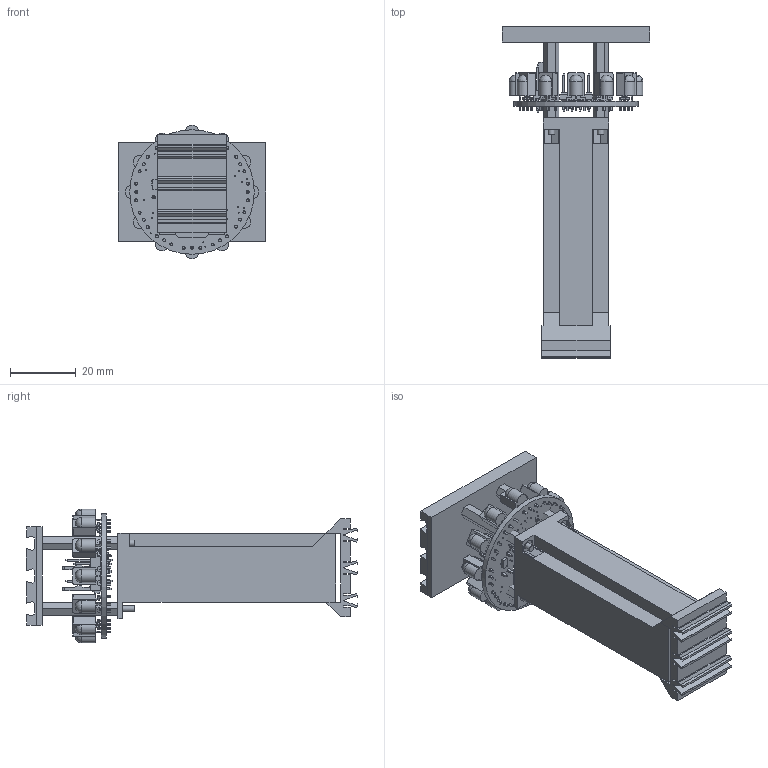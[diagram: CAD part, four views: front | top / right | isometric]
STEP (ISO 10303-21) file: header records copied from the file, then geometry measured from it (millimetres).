
FILE_DESCRIPTION(/* description */ (''),/* implementation_level */ '2;1');
FILE_NAME(/* name */ 'C:/Users/priba/Documents/Temp/mrm-ir-finder2HolderB.step',/* time_stamp */ '2019-11-01T23:21:43+01:00',/* author */ (''),/* organization */ (''),/* preprocessor_version */ 'ST-DEVELOPER v18',/* originating_system */ 'Autodesk Translation Framework v8.9.1.1155',/* authorisation */ '');
FILE_SCHEMA (('AUTOMOTIVE_DESIGN { 1 0 10303 214 3 1 1 }'));
Length unit declared in the file: millimetre
Products named in the file (34): mrm-ir-finder2HolderB; mrm-ir-finder2; PCB Component; Board; 100 nF; STM32F071C8U6; Body; ThermalPin; PinsArrayLR; PinsArrayTB; MOLEX_22-27-2021; TOSHIBA_SSM3J338R,LFSOT23; CHIPLED_0402; 1.5 kOhm; 10 kOhm; 1X05; 1X04; VISHAY_TSSP58038; VISHAY_TSSP58038_1; VISHAY_TSSP58038_2; VISHAY_TSSP58038_3; VISHAY_TSSP58038_4; VISHAY_TSSP58038_5; VISHAY_TSSP58038_6; VISHAY_TSSP58038_7; VISHAY_TSSP58038_8; VISHAY_TSSP58038_9; VISHAY_TSSP58038_10; VISHAY_TSSP58038_11; GO-100187; GO-100187 (1); FIDUCIAL1X2; Spacer 2-5; Spacer 2-18
Assembly tree (72 placements, depth 5):
  mrm-ir-finder2HolderB
    mrm-ir-finder2
      PCB Component
        Board
        100 nF  x6
        STM32F071C8U6
          Body
          ThermalPin
          PinsArrayLR
          PinsArrayTB
        MOLEX_22-27-2021  x2
        TOSHIBA_SSM3J338R,LFSOT23
        CHIPLED_0402
        1.5 kOhm
        10 kOhm
        1X05
        1X04
        VISHAY_TSSP58038
          GO-100187
          GO-100187 (1)
        VISHAY_TSSP58038_1
          GO-100187
          GO-100187 (1)
        VISHAY_TSSP58038_2
          GO-100187
          GO-100187 (1)
        VISHAY_TSSP58038_3
          GO-100187
          GO-100187 (1)
        VISHAY_TSSP58038_4
          GO-100187
          GO-100187 (1)
        VISHAY_TSSP58038_5
          GO-100187
          GO-100187 (1)
        VISHAY_TSSP58038_6
          GO-100187
          GO-100187 (1)
        VISHAY_TSSP58038_7
          GO-100187
          GO-100187 (1)
        VISHAY_TSSP58038_8
          GO-100187
          GO-100187 (1)
        VISHAY_TSSP58038_9
          GO-100187
          GO-100187 (1)
        VISHAY_TSSP58038_10
          GO-100187
          GO-100187 (1)
        VISHAY_TSSP58038_11
          GO-100187
          GO-100187 (1)
        FIDUCIAL1X2  x6
    Spacer 2-5  x4
    Spacer 2-18  x4
Bounding box: 45 x 101.26 x 40.8 mm (x, y, z)
Volume: 14872.6 mm3; surface area: 28632 mm2
Topology: 134 solids, 134 shells, 2653 faces, 6728 edges, 4308 vertices
Faces by surface type: plane 1784, cylinder 729, sphere 100, bspline 32, cone 8
Full cylindrical faces by diameter (mm): 0.3 x60, 0.875 x1, 0.9 x36, 1.016 x9, 1.11 x4, 1.933 x8, 2 x14, 2.4 x8, 5 x4, 6.4 x4, 15 x3, 38 x1
Entity records: 48763 total; most frequent: CARTESIAN_POINT 10115, ORIENTED_EDGE 7596, DIRECTION 7466, EDGE_CURVE 3798, LINE 2742, VECTOR 2742, VERTEX_POINT 2470, AXIS2_PLACEMENT_3D 2362
